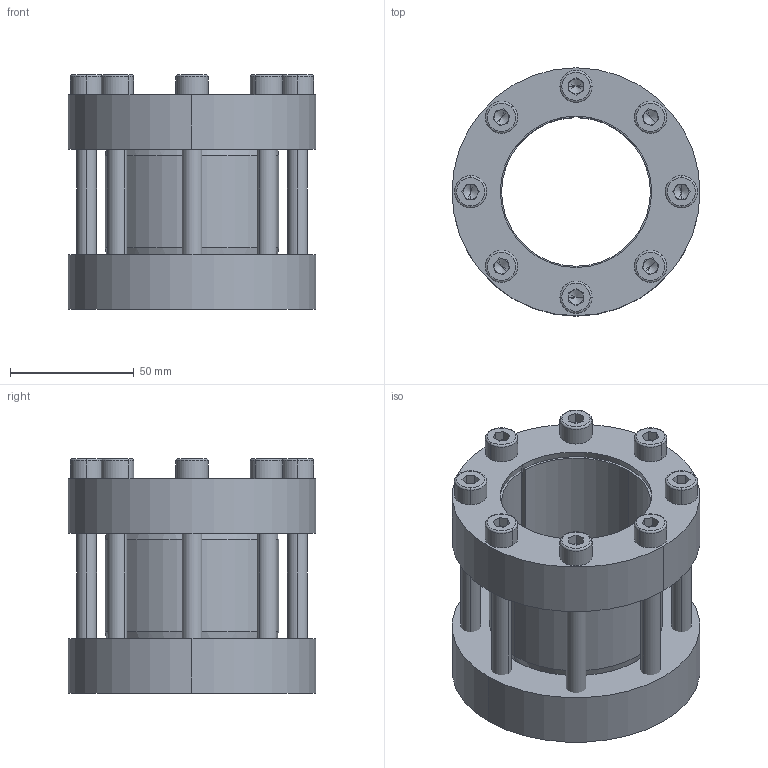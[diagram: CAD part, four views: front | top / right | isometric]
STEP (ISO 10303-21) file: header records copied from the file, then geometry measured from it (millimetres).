
FILE_DESCRIPTION (( 'STEP AP214' ), '1' );
FILE_NAME ('CONEX-M-60x100.step', '2013-04-06T13:25:46', ( 'Pc' ), ( '' ), 'SwSTEP 2.0', 'SolidWorks 2013', '' );
FILE_SCHEMA (( 'AUTOMOTIVE_DESIGN' ));
Length unit declared in the file: millimetre
Products named in the file (1): CONEX-M-60x100
Bounding box: 100 x 100 x 94.49 mm (x, y, z)
Volume: 284883.7 mm3; surface area: 102802.6 mm2
Topology: 11 solids, 11 shells, 276 faces, 622 edges, 368 vertices
Faces by surface type: plane 128, cylinder 74, cone 42, torus 32
Entity records: 10804 total; most frequent: DIRECTION 1446, CARTESIAN_POINT 1275, ORIENTED_EDGE 1212, EDGE_CURVE 606, AXIS2_PLACEMENT_3D 567, VERTEX_POINT 368, EDGE_LOOP 328, VECTOR 312
